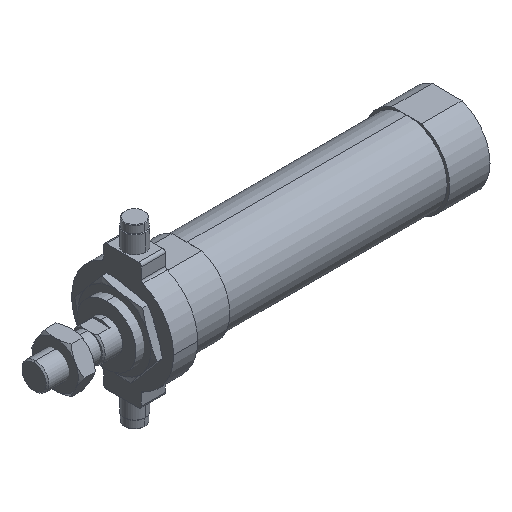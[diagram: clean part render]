
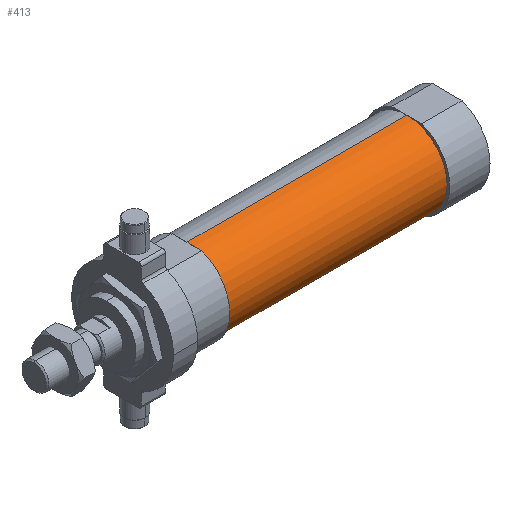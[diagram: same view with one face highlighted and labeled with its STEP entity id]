
A CAD part, isometric view. The second image highlights one B-rep face of the part: STEP entity #413.
In plain terms, the highlighted cylindrical face has radius 15 mm (diameter 30 mm), a partial arc.
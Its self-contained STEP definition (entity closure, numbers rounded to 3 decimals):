
#75 = DIRECTION ( 'NONE',  ( -1., 0., 0. ) ) ;
#87 = VERTEX_POINT ( 'NONE', #3911 ) ;
#131 = EDGE_LOOP ( 'NONE', ( #2852, #3142, #1926, #2707 ) ) ;
#199 = CIRCLE ( 'NONE', #306, 15. ) ;
#306 = AXIS2_PLACEMENT_3D ( 'NONE', #2380, #75, #3354 ) ;
#413 = ADVANCED_FACE ( 'NONE', ( #2363 ), #2309, .T. ) ;
#520 = VECTOR ( 'NONE', #1195, 1000. ) ;
#641 = EDGE_CURVE ( 'NONE', #2100, #2387, #199, .T. ) ;
#1000 = CARTESIAN_POINT ( 'NONE',  ( 139., 0., 0. ) ) ;
#1195 = DIRECTION ( 'NONE',  ( -1., 0., 0. ) ) ;
#1295 = DIRECTION ( 'NONE',  ( -1., 0., 0. ) ) ;
#1397 = LINE ( 'NONE', #2222, #520 ) ;
#1506 = CARTESIAN_POINT ( 'NONE',  ( 57., 0., -15. ) ) ;
#1926 = ORIENTED_EDGE ( 'NONE', *, *, #2409, .T. ) ;
#2100 = VERTEX_POINT ( 'NONE', #1506 ) ;
#2222 = CARTESIAN_POINT ( 'NONE',  ( -6.469, 0., -15. ) ) ;
#2249 = CARTESIAN_POINT ( 'NONE',  ( 57., 0., 15. ) ) ;
#2250 = DIRECTION ( 'NONE',  ( 0., 0., 1. ) ) ;
#2280 = DIRECTION ( 'NONE',  ( -1., 0., 0. ) ) ;
#2309 = CYLINDRICAL_SURFACE ( 'NONE', #3955, 15. ) ;
#2363 = FACE_OUTER_BOUND ( 'NONE', #131, .T. ) ;
#2380 = CARTESIAN_POINT ( 'NONE',  ( 57., 0., 0. ) ) ;
#2387 = VERTEX_POINT ( 'NONE', #2249 ) ;
#2409 = EDGE_CURVE ( 'NONE', #87, #2387, #4043, .T. ) ;
#2656 = DIRECTION ( 'NONE',  ( -1., 0., 0. ) ) ;
#2707 = ORIENTED_EDGE ( 'NONE', *, *, #641, .F. ) ;
#2852 = ORIENTED_EDGE ( 'NONE', *, *, #4185, .F. ) ;
#2963 = DIRECTION ( 'NONE',  ( 0., 0., 1. ) ) ;
#2971 = EDGE_CURVE ( 'NONE', #4210, #87, #3322, .T. ) ;
#3142 = ORIENTED_EDGE ( 'NONE', *, *, #2971, .T. ) ;
#3181 = CARTESIAN_POINT ( 'NONE',  ( 139., 0., -15. ) ) ;
#3251 = CARTESIAN_POINT ( 'NONE',  ( -6.469, 0., 15. ) ) ;
#3322 = CIRCLE ( 'NONE', #4211, 15. ) ;
#3354 = DIRECTION ( 'NONE',  ( 0., 0., 1. ) ) ;
#3610 = CARTESIAN_POINT ( 'NONE',  ( -6.469, 0., 0. ) ) ;
#3911 = CARTESIAN_POINT ( 'NONE',  ( 139., 0., 15. ) ) ;
#3955 = AXIS2_PLACEMENT_3D ( 'NONE', #3610, #2280, #2250 ) ;
#4043 = LINE ( 'NONE', #3251, #4143 ) ;
#4143 = VECTOR ( 'NONE', #1295, 1000. ) ;
#4185 = EDGE_CURVE ( 'NONE', #4210, #2100, #1397, .T. ) ;
#4210 = VERTEX_POINT ( 'NONE', #3181 ) ;
#4211 = AXIS2_PLACEMENT_3D ( 'NONE', #1000, #2656, #2963 ) ;
